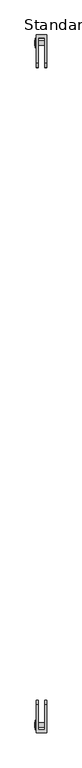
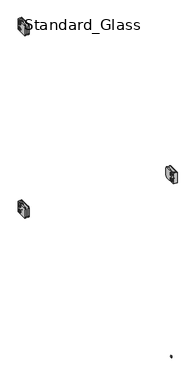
"""IFC4 building model written with IfcOpenShell, lengths in millimetres: railing geometry, Baluster-Excess-Fill-Straight-Panel-VIVA : Standard_Glass."""

from ifc_helpers import new_model, si_unit, point, frame, origin, place, context, project, spatial, polyline, circle_curve, ellipse_curve, trimmed, outline, extrude, source, transform, mapped, element, save
from ifc_brep_helpers import plane_surface, cylinder_surface, revolved_surface, advanced_brep


def standard_glass_b81fef86(model_context):
    return source(origin(), model_context, "Body", "SolidModel", [
        extrude(outline(polyline([(17.3185433, 917.178125), (15.2715791, 913.6326791), (11.1776508, 913.6326791), (9.1306867, 917.178125), (11.1776508, 920.7235709), (15.2715791, 920.7235709), (17.3185433, 917.178125)])), frame((21.7024185, 0.0, 0.0), z_axis=(1.0, 0.0, 0.0), x_axis=(0.0, 1.0, 0.0)), (0.0, 0.0, 1.0), 1.4969696),
        advanced_brep(
        [(36.7665, 16.7700609, 917.178125), (36.7665, 9.6791691, 917.178125), (24.0665, 9.6791691, 917.178125), (24.0665, 16.7700609, 917.178125), (24.0665, 5.8168259, 917.178125), (24.0665, 20.6324041, 917.178125), (23.199388, 14.8806904, 917.178125), (23.199388, 11.5685396, 917.178125), (36.7665, 11.5685396, 917.178125), (36.7665, 14.8806904, 917.178125), (23.2316551, 20.6324041, 917.178125), (23.2316551, 5.8168259, 917.178125), (21.9503831, 7.0980979, 917.178125), (21.9503831, 19.351132, 917.178125), (21.9503831, 8.9260194, 917.178125), (21.9503831, 17.5232105, 917.178125), (23.199388, 8.9260194, 917.178125), (23.199388, 17.5232105, 917.178125)],
        [
            (0, 1, circle_curve(frame((36.7665, 13.224615, 917.178125), z_axis=(-1.0, 0.0, 0.0), x_axis=(0.0, -1.0, 0.0)), 3.5454459)),
            (1, 2),
            (2, 3, circle_curve(frame((24.0665, 13.224615, 917.178125), z_axis=(1.0, 0.0, 0.0), x_axis=(0.0, -1.0, 0.0)), 3.5454459)),
            (3, 0),
            (1, 0, circle_curve(frame((36.7665, 13.224615, 917.178125), z_axis=(-1.0, 0.0, 0.0), x_axis=(0.0, -1.0, 0.0)), 3.5454459)),
            (3, 2, circle_curve(frame((24.0665, 13.224615, 917.178125), z_axis=(1.0, 0.0, 0.0), x_axis=(0.0, -1.0, 0.0)), 3.5454459)),
            (2, 4),
            (4, 5, circle_curve(frame((24.0665, 13.224615, 917.178125), z_axis=(1.0, 0.0, 0.0), x_axis=(0.0, -1.0, 0.0)), 7.4077891)),
            (5, 3),
            (5, 4, circle_curve(frame((24.0665, 13.224615, 917.178125), z_axis=(1.0, 0.0, 0.0), x_axis=(0.0, -1.0, 0.0)), 7.4077891)),
            (6, 7, circle_curve(frame((23.199388, 13.224615, 917.178125), z_axis=(-1.0, 0.0, 0.0), x_axis=(0.0, -1.0, 0.0)), 1.6560754)),
            (7, 8),
            (8, 9, circle_curve(frame((36.7665, 13.224615, 917.178125), z_axis=(1.0, 0.0, 0.0), x_axis=(0.0, -1.0, 0.0)), 1.6560754)),
            (9, 6),
            (7, 6, circle_curve(frame((23.199388, 13.224615, 917.178125), z_axis=(-1.0, 0.0, 0.0), x_axis=(0.0, -1.0, 0.0)), 1.6560754)),
            (9, 8, circle_curve(frame((36.7665, 13.224615, 917.178125), z_axis=(1.0, 0.0, 0.0), x_axis=(0.0, -1.0, 0.0)), 1.6560754)),
            (10, 11, circle_curve(frame((23.2316551, 13.224615, 917.178125), z_axis=(-1.0, 0.0, 0.0), x_axis=(0.0, -1.0, 0.0)), 7.4077891)),
            (11, 12, circle_curve(frame((23.2316551, 7.0980979, 917.178125), z_axis=(0.0, 0.0, -1.0), x_axis=(0.0, -1.0, 0.0)), 1.281272)),
            (12, 13, circle_curve(frame((21.9503831, 13.224615, 917.178125), z_axis=(1.0, 0.0, 0.0), x_axis=(0.0, -1.0, 0.0)), 6.1265171)),
            (13, 10, circle_curve(frame((23.2316551, 19.351132, 917.178125), z_axis=(0.0, 0.0, -1.0), x_axis=(0.0, 1.0, 0.0)), 1.281272)),
            (11, 10, circle_curve(frame((23.2316551, 13.224615, 917.178125), z_axis=(-1.0, 0.0, 0.0), x_axis=(0.0, -1.0, 0.0)), 7.4077891)),
            (13, 12, circle_curve(frame((21.9503831, 13.224615, 917.178125), z_axis=(1.0, 0.0, 0.0), x_axis=(0.0, -1.0, 0.0)), 6.1265171)),
            (12, 14),
            (14, 15, circle_curve(frame((21.9503831, 13.224615, 917.178125), z_axis=(1.0, 0.0, 0.0), x_axis=(0.0, -1.0, 0.0)), 4.2985955)),
            (15, 13),
            (15, 14, circle_curve(frame((21.9503831, 13.224615, 917.178125), z_axis=(1.0, 0.0, 0.0), x_axis=(0.0, -1.0, 0.0)), 4.2985955)),
            (4, 11),
            (10, 5),
            (8, 1),
            (0, 9),
            (14, 16),
            (16, 17, circle_curve(frame((23.199388, 13.224615, 917.178125), z_axis=(1.0, 0.0, 0.0), x_axis=(0.0, -1.0, 0.0)), 4.2985955)),
            (17, 15),
            (17, 16, circle_curve(frame((23.199388, 13.224615, 917.178125), z_axis=(1.0, 0.0, 0.0), x_axis=(0.0, -1.0, 0.0)), 4.2985955)),
            (16, 7),
            (6, 17),
        ],
        [
            cylinder_surface(frame((27.5632331, 13.224615, 917.178125), z_axis=(1.0, 0.0, 0.0), x_axis=(0.0, -1.0, 0.0)), 3.5454459),
            plane_surface(frame((24.0665, 13.224615, 917.178125), z_axis=(1.0, 0.0, 0.0), x_axis=(0.0, -1.0, 0.0))),
            revolved_surface(polyline([(36.7665, 11.5685396, 917.178125), (23.199388, 11.5685396, 917.178125)]), (27.5632331, 13.224615, 917.178125), (1.0, 0.0, 0.0)),
            revolved_surface(trimmed(ellipse_curve(frame((23.2316551, 7.0980979, 917.178125), z_axis=(0.0, 0.0, 1.0), x_axis=(0.0, -1.0, 0.0)), 1.281272, 1.281272), [point((21.9503831, 7.0980979, 917.178125))], [point((23.2316551, 5.8168259, 917.178125))], True, "CARTESIAN"), (27.5632331, 13.224615, 917.178125), (1.0, 0.0, 0.0)),
            plane_surface(frame((21.9503831, 13.224615, 917.178125), z_axis=(-1.0, 0.0, 0.0), x_axis=(0.0, -1.0, 0.0))),
            cylinder_surface(frame((27.5632331, 13.224615, 917.178125), z_axis=(1.0, 0.0, 0.0), x_axis=(0.0, -1.0, 0.0)), 7.4077891),
            plane_surface(frame((36.7665, 13.224615, 917.178125), z_axis=(1.0, 0.0, 0.0), x_axis=(0.0, -1.0, 0.0))),
            revolved_surface(polyline([(23.199388, 8.926019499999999, 917.178125), (21.9503831, 8.926019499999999, 917.178125)]), (27.5632331, 13.224615, 917.178125), (1.0, 0.0, 0.0)),
            plane_surface(frame((23.199388, 13.224615, 917.178125), z_axis=(-1.0, 0.0, 0.0), x_axis=(0.0, -1.0, 0.0))),
        ],
        [
            (0, [[1, 2, 3, 4]]),
            (0, [[5, -4, 6, -2]]),
            (1, [[-3, 7, 8, 9]]),
            (1, [[-6, -9, 10, -7]]),
            (2, [[11, 12, 13, 14]]),
            (2, [[15, -14, 16, -12]]),
            (3, [[17, 18, 19, 20]]),
            (3, [[21, -20, 22, -18]]),
            (4, [[-19, 23, 24, 25]]),
            (4, [[-22, -25, 26, -23]]),
            (5, [[-8, 27, -17, 28]]),
            (5, [[-10, -28, -21, -27]]),
            (6, [[-13, 29, -1, 30]]),
            (6, [[-16, -30, -5, -29]]),
            (7, [[-24, 31, 32, 33]]),
            (7, [[-26, -33, 34, -31]]),
            (8, [[-32, 35, -11, 36]]),
            (8, [[-34, -36, -15, -35]]),
        ],
    ),
        advanced_brep(
        [(36.7665, 16.7700609, 892.571875), (36.7665, 9.6791691, 892.571875), (24.0665, 9.6791691, 892.571875), (24.0665, 16.7700609, 892.571875), (24.0665, 5.8168259, 892.571875), (24.0665, 20.6324041, 892.571875), (23.199388, 14.8806904, 892.571875), (23.199388, 11.5685396, 892.571875), (36.7665, 11.5685396, 892.571875), (36.7665, 14.8806904, 892.571875), (23.2316551, 20.6324041, 892.571875), (23.2316551, 5.8168259, 892.571875), (21.9503831, 7.0980979, 892.571875), (21.9503831, 19.351132, 892.571875), (21.9503831, 8.9260194, 892.571875), (21.9503831, 17.5232105, 892.571875), (23.199388, 8.9260194, 892.571875), (23.199388, 17.5232105, 892.571875)],
        [
            (0, 1, circle_curve(frame((36.7665, 13.224615, 892.571875), z_axis=(-1.0, 0.0, 0.0), x_axis=(0.0, -1.0, 0.0)), 3.5454459)),
            (1, 2),
            (2, 3, circle_curve(frame((24.0665, 13.224615, 892.571875), z_axis=(1.0, 0.0, 0.0), x_axis=(0.0, -1.0, 0.0)), 3.5454459)),
            (3, 0),
            (1, 0, circle_curve(frame((36.7665, 13.224615, 892.571875), z_axis=(-1.0, 0.0, 0.0), x_axis=(0.0, -1.0, 0.0)), 3.5454459)),
            (3, 2, circle_curve(frame((24.0665, 13.224615, 892.571875), z_axis=(1.0, 0.0, 0.0), x_axis=(0.0, -1.0, 0.0)), 3.5454459)),
            (2, 4),
            (4, 5, circle_curve(frame((24.0665, 13.224615, 892.571875), z_axis=(1.0, 0.0, 0.0), x_axis=(0.0, -1.0, 0.0)), 7.4077891)),
            (5, 3),
            (5, 4, circle_curve(frame((24.0665, 13.224615, 892.571875), z_axis=(1.0, 0.0, 0.0), x_axis=(0.0, -1.0, 0.0)), 7.4077891)),
            (6, 7, circle_curve(frame((23.199388, 13.224615, 892.571875), z_axis=(-1.0, 0.0, 0.0), x_axis=(0.0, -1.0, 0.0)), 1.6560754)),
            (7, 8),
            (8, 9, circle_curve(frame((36.7665, 13.224615, 892.571875), z_axis=(1.0, 0.0, 0.0), x_axis=(0.0, -1.0, 0.0)), 1.6560754)),
            (9, 6),
            (7, 6, circle_curve(frame((23.199388, 13.224615, 892.571875), z_axis=(-1.0, 0.0, 0.0), x_axis=(0.0, -1.0, 0.0)), 1.6560754)),
            (9, 8, circle_curve(frame((36.7665, 13.224615, 892.571875), z_axis=(1.0, 0.0, 0.0), x_axis=(0.0, -1.0, 0.0)), 1.6560754)),
            (10, 11, circle_curve(frame((23.2316551, 13.224615, 892.571875), z_axis=(-1.0, 0.0, 0.0), x_axis=(0.0, -1.0, 0.0)), 7.4077891)),
            (11, 12, circle_curve(frame((23.2316551, 7.0980979, 892.571875), z_axis=(0.0, 0.0, -1.0), x_axis=(0.0, -1.0, 0.0)), 1.281272)),
            (12, 13, circle_curve(frame((21.9503831, 13.224615, 892.571875), z_axis=(1.0, 0.0, 0.0), x_axis=(0.0, -1.0, 0.0)), 6.1265171)),
            (13, 10, circle_curve(frame((23.2316551, 19.351132, 892.571875), z_axis=(0.0, 0.0, -1.0), x_axis=(0.0, 1.0, 0.0)), 1.281272)),
            (11, 10, circle_curve(frame((23.2316551, 13.224615, 892.571875), z_axis=(-1.0, 0.0, 0.0), x_axis=(0.0, -1.0, 0.0)), 7.4077891)),
            (13, 12, circle_curve(frame((21.9503831, 13.224615, 892.571875), z_axis=(1.0, 0.0, 0.0), x_axis=(0.0, -1.0, 0.0)), 6.1265171)),
            (12, 14),
            (14, 15, circle_curve(frame((21.9503831, 13.224615, 892.571875), z_axis=(1.0, 0.0, 0.0), x_axis=(0.0, -1.0, 0.0)), 4.2985955)),
            (15, 13),
            (15, 14, circle_curve(frame((21.9503831, 13.224615, 892.571875), z_axis=(1.0, 0.0, 0.0), x_axis=(0.0, -1.0, 0.0)), 4.2985955)),
            (8, 1),
            (0, 9),
            (4, 11),
            (10, 5),
            (14, 16),
            (16, 17, circle_curve(frame((23.199388, 13.224615, 892.571875), z_axis=(1.0, 0.0, 0.0), x_axis=(0.0, -1.0, 0.0)), 4.2985955)),
            (17, 15),
            (17, 16, circle_curve(frame((23.199388, 13.224615, 892.571875), z_axis=(1.0, 0.0, 0.0), x_axis=(0.0, -1.0, 0.0)), 4.2985955)),
            (16, 7),
            (6, 17),
        ],
        [
            cylinder_surface(frame((27.5632331, 13.224615, 892.571875), z_axis=(1.0, 0.0, 0.0), x_axis=(0.0, -1.0, 0.0)), 3.5454459),
            plane_surface(frame((24.0665, 13.224615, 892.571875), z_axis=(1.0, 0.0, 0.0), x_axis=(0.0, -1.0, 0.0))),
            revolved_surface(polyline([(36.7665, 11.5685396, 892.571875), (23.199388, 11.5685396, 892.571875)]), (27.5632331, 13.224615, 892.571875), (1.0, 0.0, 0.0)),
            revolved_surface(trimmed(ellipse_curve(frame((23.2316551, 7.0980979, 892.571875), z_axis=(0.0, 0.0, 1.0), x_axis=(0.0, -1.0, 0.0)), 1.281272, 1.281272), [point((21.9503831, 7.0980979, 892.571875))], [point((23.2316551, 5.8168259, 892.571875))], True, "CARTESIAN"), (27.5632331, 13.224615, 892.571875), (1.0, 0.0, 0.0)),
            plane_surface(frame((21.9503831, 13.224615, 892.571875), z_axis=(-1.0, 0.0, 0.0), x_axis=(0.0, -1.0, 0.0))),
            plane_surface(frame((36.7665, 13.224615, 892.571875), z_axis=(1.0, 0.0, 0.0), x_axis=(0.0, -1.0, 0.0))),
            cylinder_surface(frame((27.5632331, 13.224615, 892.571875), z_axis=(1.0, 0.0, 0.0), x_axis=(0.0, -1.0, 0.0)), 7.4077891),
            revolved_surface(polyline([(23.199388, 8.926019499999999, 892.571875), (21.9503831, 8.926019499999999, 892.571875)]), (27.5632331, 13.224615, 892.571875), (1.0, 0.0, 0.0)),
            plane_surface(frame((23.199388, 13.224615, 892.571875), z_axis=(-1.0, 0.0, 0.0), x_axis=(0.0, -1.0, 0.0))),
        ],
        [
            (0, [[1, 2, 3, 4]]),
            (0, [[5, -4, 6, -2]]),
            (1, [[-3, 7, 8, 9]]),
            (1, [[-6, -9, 10, -7]]),
            (2, [[11, 12, 13, 14]]),
            (2, [[15, -14, 16, -12]]),
            (3, [[17, 18, 19, 20]]),
            (3, [[21, -20, 22, -18]]),
            (4, [[-19, 23, 24, 25]]),
            (4, [[-22, -25, 26, -23]]),
            (5, [[-13, 27, -1, 28]]),
            (5, [[-16, -28, -5, -27]]),
            (6, [[-8, 29, -17, 30]]),
            (6, [[-10, -30, -21, -29]]),
            (7, [[-24, 31, 32, 33]]),
            (7, [[-26, -33, 34, -31]]),
            (8, [[-32, 35, -11, 36]]),
            (8, [[-34, -36, -15, -35]]),
        ],
    ),
        extrude(outline(polyline([(17.3185433, 892.571875), (15.2715791, 889.0264291), (11.1776508, 889.0264291), (9.1306867, 892.571875), (11.1776508, 896.1173209), (15.2715791, 896.1173209), (17.3185433, 892.571875)])), frame((21.7024185, 0.0, 0.0), z_axis=(1.0, 0.0, 0.0), x_axis=(0.0, 1.0, 0.0)), (0.0, 0.0, 1.0), 1.4969696),
        advanced_brep(
        [(24.0665, 25.8579597, 927.1), (24.0665, 25.8579597, 882.65), (24.0665, -18.5920403, 882.65), (24.0665, -24.9420403, 889.0), (24.0665, -24.9420403, 920.75), (24.0665, -18.5920403, 927.1), (39.9415, 25.8579597, 927.1), (39.9415, -18.5920403, 927.1), (39.9415, -24.9420403, 920.75), (39.9415, -24.9420403, 889.0), (39.9415, -18.5920403, 882.65), (39.9415, 25.8579597, 882.65), (36.7665, -18.5920403, 882.65), (36.7665, 21.1398793, 882.65), (27.2415, 21.1398793, 882.65), (27.2415, -18.5920403, 882.65), (36.7665, 21.1398793, 927.1), (27.2415, 21.1398793, 927.1), (27.2415, -18.5920403, 927.1), (27.2415, -24.9420403, 920.75), (27.2415, -24.9420403, 889.0), (36.7665, -24.9420403, 889.0), (36.7665, -24.9420403, 920.75), (36.7665, -18.5920403, 927.1)],
        [
            (0, 1),
            (1, 2),
            (2, 3, circle_curve(frame((24.0665, -18.5920403, 889.0), z_axis=(-1.0, 0.0, 0.0), x_axis=(0.0, -1.0, 0.0)), 6.35)),
            (3, 4),
            (4, 5, circle_curve(frame((24.0665, -18.5920403, 920.75), z_axis=(-1.0, 0.0, 0.0), x_axis=(0.0, -1.0, 0.0)), 6.35)),
            (5, 0),
            (6, 7),
            (7, 8, circle_curve(frame((39.9415, -18.5920403, 920.75), z_axis=(1.0, 0.0, 0.0), x_axis=(0.0, -1.0, 0.0)), 6.35)),
            (8, 9),
            (9, 10, circle_curve(frame((39.9415, -18.5920403, 889.0), z_axis=(1.0, 0.0, 0.0), x_axis=(0.0, -1.0, 0.0)), 6.35)),
            (10, 11),
            (11, 6),
            (0, 6),
            (11, 1),
            (10, 12),
            (12, 13),
            (13, 14),
            (14, 15),
            (15, 2),
            (13, 16),
            (16, 17),
            (17, 14),
            (17, 18),
            (18, 19, circle_curve(frame((27.2415, -18.5920403, 920.75), z_axis=(1.0, 0.0, 0.0), x_axis=(0.0, -1.0, 0.0)), 6.35)),
            (19, 20),
            (20, 15, circle_curve(frame((27.2415, -18.5920403, 889.0), z_axis=(1.0, 0.0, 0.0), x_axis=(0.0, -1.0, 0.0)), 6.35)),
            (12, 21, circle_curve(frame((36.7665, -18.5920403, 889.0), z_axis=(-1.0, 0.0, 0.0), x_axis=(0.0, -1.0, 0.0)), 6.35)),
            (21, 22),
            (22, 23, circle_curve(frame((36.7665, -18.5920403, 920.75), z_axis=(-1.0, 0.0, 0.0), x_axis=(0.0, -1.0, 0.0)), 6.35)),
            (23, 16),
            (20, 3),
            (9, 21),
            (19, 4),
            (8, 22),
            (18, 5),
            (7, 23),
        ],
        [
            plane_surface(frame((24.0665, 25.8579597, 882.65), z_axis=(-1.0, 0.0, 0.0), x_axis=(0.0, 0.0, -1.0))),
            plane_surface(frame((39.9415, 25.8579597, 882.65), z_axis=(1.0, 0.0, 0.0), x_axis=(0.0, 0.0, 1.0))),
            plane_surface(frame((24.0665, 25.8579597, 927.1), z_axis=(0.0, 1.0, 0.0), x_axis=(1.0, 0.0, 0.0))),
            plane_surface(frame((24.0665, 25.8579597, 882.65), z_axis=(0.0, 0.0, -1.0), x_axis=(1.0, 0.0, 0.0))),
            plane_surface(frame((36.7665, 21.1398793, 939.8), z_axis=(0.0, -1.0, 0.0), x_axis=(0.0, 0.0, -1.0))),
            plane_surface(frame((27.2415, 21.1398793, 939.8), z_axis=(1.0, 0.0, 0.0), x_axis=(0.0, 0.0, -1.0))),
            plane_surface(frame((36.7665, -37.6420403, 939.8), z_axis=(-1.0, 0.0, 0.0), x_axis=(0.0, 0.0, -1.0))),
            cylinder_surface(frame((39.9415, -18.5920403, 889.0), z_axis=(-1.0, 0.0, 0.0), x_axis=(0.0, -1.0, 0.0)), 6.35),
            plane_surface(frame((24.0665, -24.9420403, 889.0), z_axis=(0.0, -1.0, 0.0), x_axis=(1.0, 0.0, 0.0))),
            cylinder_surface(frame((39.9415, -18.5920403, 920.75), z_axis=(-1.0, 0.0, 0.0), x_axis=(0.0, -1.0, 0.0)), 6.35),
            plane_surface(frame((24.0665, -18.5920403, 927.1), z_axis=(0.0, 0.0, 1.0), x_axis=(1.0, 0.0, 0.0))),
        ],
        [
            (0, [[1, 2, 3, 4, 5, 6]]),
            (1, [[7, 8, 9, 10, 11, 12]]),
            (2, [[-1, 13, -12, 14]]),
            (3, [[-2, -14, -11, 15, 16, 17, 18, 19]]),
            (4, [[20, 21, 22, -17]]),
            (5, [[-22, 23, 24, 25, 26, -18]]),
            (6, [[-20, -16, 27, 28, 29, 30]]),
            (7, [[-3, -19, -26, 31]]),
            (7, [[-10, 32, -27, -15]]),
            (8, [[-4, -31, -25, 33]]),
            (8, [[-9, 34, -28, -32]]),
            (9, [[-5, -33, -24, 35]]),
            (9, [[-8, 36, -29, -34]]),
            (10, [[-6, -35, -23, -21, -30, -36, -7, -13]]),
        ],
    ),
        extrude(outline(polyline([(17.3185433, 138.7358896), (15.2715791, 135.1904437), (11.1776508, 135.1904437), (9.1306867, 138.7358896), (11.1776508, 142.2813355), (15.2715791, 142.2813355), (17.3185433, 138.7358896)])), frame((21.7024185, 0.0, 0.0), z_axis=(1.0, 0.0, 0.0), x_axis=(0.0, 1.0, 0.0)), (0.0, 0.0, 1.0), 1.4969696),
        advanced_brep(
        [(36.7665, 16.7700609, 138.7358896), (36.7665, 9.6791691, 138.7358896), (24.0665, 9.6791691, 138.7358896), (24.0665, 16.7700609, 138.7358896), (24.0665, 5.8168259, 138.7358896), (24.0665, 20.6324041, 138.7358896), (23.199388, 14.8806904, 138.7358896), (23.199388, 11.5685396, 138.7358896), (36.7665, 11.5685396, 138.7358896), (36.7665, 14.8806904, 138.7358896), (23.2316551, 20.6324041, 138.7358896), (23.2316551, 5.8168259, 138.7358896), (21.9503831, 7.0980979, 138.7358896), (21.9503831, 19.351132, 138.7358896), (21.9503831, 8.9260194, 138.7358896), (21.9503831, 17.5232105, 138.7358896), (23.199388, 8.9260194, 138.7358896), (23.199388, 17.5232105, 138.7358896)],
        [
            (0, 1, circle_curve(frame((36.7665, 13.224615, 138.7358896), z_axis=(-1.0, 0.0, 0.0), x_axis=(0.0, -1.0, 0.0)), 3.5454459)),
            (1, 2),
            (2, 3, circle_curve(frame((24.0665, 13.224615, 138.7358896), z_axis=(1.0, 0.0, 0.0), x_axis=(0.0, -1.0, 0.0)), 3.5454459)),
            (3, 0),
            (1, 0, circle_curve(frame((36.7665, 13.224615, 138.7358896), z_axis=(-1.0, 0.0, 0.0), x_axis=(0.0, -1.0, 0.0)), 3.5454459)),
            (3, 2, circle_curve(frame((24.0665, 13.224615, 138.7358896), z_axis=(1.0, 0.0, 0.0), x_axis=(0.0, -1.0, 0.0)), 3.5454459)),
            (2, 4),
            (4, 5, circle_curve(frame((24.0665, 13.224615, 138.7358896), z_axis=(1.0, 0.0, 0.0), x_axis=(0.0, -1.0, 0.0)), 7.4077891)),
            (5, 3),
            (5, 4, circle_curve(frame((24.0665, 13.224615, 138.7358896), z_axis=(1.0, 0.0, 0.0), x_axis=(0.0, -1.0, 0.0)), 7.4077891)),
            (6, 7, circle_curve(frame((23.199388, 13.224615, 138.7358896), z_axis=(-1.0, 0.0, 0.0), x_axis=(0.0, -1.0, 0.0)), 1.6560754)),
            (7, 8),
            (8, 9, circle_curve(frame((36.7665, 13.224615, 138.7358896), z_axis=(1.0, 0.0, 0.0), x_axis=(0.0, -1.0, 0.0)), 1.6560754)),
            (9, 6),
            (7, 6, circle_curve(frame((23.199388, 13.224615, 138.7358896), z_axis=(-1.0, 0.0, 0.0), x_axis=(0.0, -1.0, 0.0)), 1.6560754)),
            (9, 8, circle_curve(frame((36.7665, 13.224615, 138.7358896), z_axis=(1.0, 0.0, 0.0), x_axis=(0.0, -1.0, 0.0)), 1.6560754)),
            (10, 11, circle_curve(frame((23.2316551, 13.224615, 138.7358896), z_axis=(-1.0, 0.0, 0.0), x_axis=(0.0, -1.0, 0.0)), 7.4077891)),
            (11, 12, circle_curve(frame((23.2316551, 7.0980979, 138.7358896), z_axis=(0.0, 0.0, -1.0), x_axis=(0.0, -1.0, 0.0)), 1.281272)),
            (12, 13, circle_curve(frame((21.9503831, 13.224615, 138.7358896), z_axis=(1.0, 0.0, 0.0), x_axis=(0.0, -1.0, 0.0)), 6.1265171)),
            (13, 10, circle_curve(frame((23.2316551, 19.351132, 138.7358896), z_axis=(0.0, 0.0, -1.0), x_axis=(0.0, 1.0, 0.0)), 1.281272)),
            (11, 10, circle_curve(frame((23.2316551, 13.224615, 138.7358896), z_axis=(-1.0, 0.0, 0.0), x_axis=(0.0, -1.0, 0.0)), 7.4077891)),
            (13, 12, circle_curve(frame((21.9503831, 13.224615, 138.7358896), z_axis=(1.0, 0.0, 0.0), x_axis=(0.0, -1.0, 0.0)), 6.1265171)),
            (12, 14),
            (14, 15, circle_curve(frame((21.9503831, 13.224615, 138.7358896), z_axis=(1.0, 0.0, 0.0), x_axis=(0.0, -1.0, 0.0)), 4.2985955)),
            (15, 13),
            (15, 14, circle_curve(frame((21.9503831, 13.224615, 138.7358896), z_axis=(1.0, 0.0, 0.0), x_axis=(0.0, -1.0, 0.0)), 4.2985955)),
            (4, 11),
            (10, 5),
            (8, 1),
            (0, 9),
            (14, 16),
            (16, 17, circle_curve(frame((23.199388, 13.224615, 138.7358896), z_axis=(1.0, 0.0, 0.0), x_axis=(0.0, -1.0, 0.0)), 4.2985955)),
            (17, 15),
            (17, 16, circle_curve(frame((23.199388, 13.224615, 138.7358896), z_axis=(1.0, 0.0, 0.0), x_axis=(0.0, -1.0, 0.0)), 4.2985955)),
            (16, 7),
            (6, 17),
        ],
        [
            cylinder_surface(frame((27.5632331, 13.224615, 138.7358896), z_axis=(1.0, 0.0, 0.0), x_axis=(0.0, -1.0, 0.0)), 3.5454459),
            plane_surface(frame((24.0665, 13.224615, 138.7358896), z_axis=(1.0, 0.0, 0.0), x_axis=(0.0, -1.0, 0.0))),
            revolved_surface(polyline([(36.7665, 11.5685396, 138.7358896), (23.199388, 11.5685396, 138.7358896)]), (27.5632331, 13.224615, 138.7358896), (1.0, 0.0, 0.0)),
            revolved_surface(trimmed(ellipse_curve(frame((23.2316551, 7.0980979, 138.7358896), z_axis=(0.0, 0.0, 1.0), x_axis=(0.0, -1.0, 0.0)), 1.281272, 1.281272), [point((21.9503831, 7.0980979, 138.7358896))], [point((23.2316551, 5.8168259, 138.7358896))], True, "CARTESIAN"), (27.5632331, 13.224615, 138.7358896), (1.0, 0.0, 0.0)),
            plane_surface(frame((21.9503831, 13.224615, 138.7358896), z_axis=(-1.0, 0.0, 0.0), x_axis=(0.0, -1.0, 0.0))),
            cylinder_surface(frame((27.5632331, 13.224615, 138.7358896), z_axis=(1.0, 0.0, 0.0), x_axis=(0.0, -1.0, 0.0)), 7.4077891),
            plane_surface(frame((36.7665, 13.224615, 138.7358896), z_axis=(1.0, 0.0, 0.0), x_axis=(0.0, -1.0, 0.0))),
            revolved_surface(polyline([(23.199388, 8.926019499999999, 138.7358896), (21.9503831, 8.926019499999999, 138.7358896)]), (27.5632331, 13.224615, 138.7358896), (1.0, 0.0, 0.0)),
            plane_surface(frame((23.199388, 13.224615, 138.7358896), z_axis=(-1.0, 0.0, 0.0), x_axis=(0.0, -1.0, 0.0))),
        ],
        [
            (0, [[1, 2, 3, 4]]),
            (0, [[5, -4, 6, -2]]),
            (1, [[-3, 7, 8, 9]]),
            (1, [[-6, -9, 10, -7]]),
            (2, [[11, 12, 13, 14]]),
            (2, [[15, -14, 16, -12]]),
            (3, [[17, 18, 19, 20]]),
            (3, [[21, -20, 22, -18]]),
            (4, [[-19, 23, 24, 25]]),
            (4, [[-22, -25, 26, -23]]),
            (5, [[-8, 27, -17, 28]]),
            (5, [[-10, -28, -21, -27]]),
            (6, [[-13, 29, -1, 30]]),
            (6, [[-16, -30, -5, -29]]),
            (7, [[-24, 31, 32, 33]]),
            (7, [[-26, -33, 34, -31]]),
            (8, [[-32, 35, -11, 36]]),
            (8, [[-34, -36, -15, -35]]),
        ],
    ),
        advanced_brep(
        [(36.7665, 16.7700609, 114.1296396), (36.7665, 9.6791691, 114.1296396), (24.0665, 9.6791691, 114.1296396), (24.0665, 16.7700609, 114.1296396), (24.0665, 5.8168259, 114.1296396), (24.0665, 20.6324041, 114.1296396), (23.199388, 14.8806904, 114.1296396), (23.199388, 11.5685396, 114.1296396), (36.7665, 11.5685396, 114.1296396), (36.7665, 14.8806904, 114.1296396), (23.2316551, 20.6324041, 114.1296396), (23.2316551, 5.8168259, 114.1296396), (21.9503831, 7.0980979, 114.1296396), (21.9503831, 19.351132, 114.1296396), (21.9503831, 8.9260194, 114.1296396), (21.9503831, 17.5232105, 114.1296396), (23.199388, 8.9260194, 114.1296396), (23.199388, 17.5232105, 114.1296396)],
        [
            (0, 1, circle_curve(frame((36.7665, 13.224615, 114.1296396), z_axis=(-1.0, 0.0, 0.0), x_axis=(0.0, -1.0, 0.0)), 3.5454459)),
            (1, 2),
            (2, 3, circle_curve(frame((24.0665, 13.224615, 114.1296396), z_axis=(1.0, 0.0, 0.0), x_axis=(0.0, -1.0, 0.0)), 3.5454459)),
            (3, 0),
            (1, 0, circle_curve(frame((36.7665, 13.224615, 114.1296396), z_axis=(-1.0, 0.0, 0.0), x_axis=(0.0, -1.0, 0.0)), 3.5454459)),
            (3, 2, circle_curve(frame((24.0665, 13.224615, 114.1296396), z_axis=(1.0, 0.0, 0.0), x_axis=(0.0, -1.0, 0.0)), 3.5454459)),
            (2, 4),
            (4, 5, circle_curve(frame((24.0665, 13.224615, 114.1296396), z_axis=(1.0, 0.0, 0.0), x_axis=(0.0, -1.0, 0.0)), 7.4077891)),
            (5, 3),
            (5, 4, circle_curve(frame((24.0665, 13.224615, 114.1296396), z_axis=(1.0, 0.0, 0.0), x_axis=(0.0, -1.0, 0.0)), 7.4077891)),
            (6, 7, circle_curve(frame((23.199388, 13.224615, 114.1296396), z_axis=(-1.0, 0.0, 0.0), x_axis=(0.0, -1.0, 0.0)), 1.6560754)),
            (7, 8),
            (8, 9, circle_curve(frame((36.7665, 13.224615, 114.1296396), z_axis=(1.0, 0.0, 0.0), x_axis=(0.0, -1.0, 0.0)), 1.6560754)),
            (9, 6),
            (7, 6, circle_curve(frame((23.199388, 13.224615, 114.1296396), z_axis=(-1.0, 0.0, 0.0), x_axis=(0.0, -1.0, 0.0)), 1.6560754)),
            (9, 8, circle_curve(frame((36.7665, 13.224615, 114.1296396), z_axis=(1.0, 0.0, 0.0), x_axis=(0.0, -1.0, 0.0)), 1.6560754)),
            (10, 11, circle_curve(frame((23.2316551, 13.224615, 114.1296396), z_axis=(-1.0, 0.0, 0.0), x_axis=(0.0, -1.0, 0.0)), 7.4077891)),
            (11, 12, circle_curve(frame((23.2316551, 7.0980979, 114.1296396), z_axis=(0.0, 0.0, -1.0), x_axis=(0.0, -1.0, 0.0)), 1.281272)),
            (12, 13, circle_curve(frame((21.9503831, 13.224615, 114.1296396), z_axis=(1.0, 0.0, 0.0), x_axis=(0.0, -1.0, 0.0)), 6.1265171)),
            (13, 10, circle_curve(frame((23.2316551, 19.351132, 114.1296396), z_axis=(0.0, 0.0, -1.0), x_axis=(0.0, 1.0, 0.0)), 1.281272)),
            (11, 10, circle_curve(frame((23.2316551, 13.224615, 114.1296396), z_axis=(-1.0, 0.0, 0.0), x_axis=(0.0, -1.0, 0.0)), 7.4077891)),
            (13, 12, circle_curve(frame((21.9503831, 13.224615, 114.1296396), z_axis=(1.0, 0.0, 0.0), x_axis=(0.0, -1.0, 0.0)), 6.1265171)),
            (12, 14),
            (14, 15, circle_curve(frame((21.9503831, 13.224615, 114.1296396), z_axis=(1.0, 0.0, 0.0), x_axis=(0.0, -1.0, 0.0)), 4.2985955)),
            (15, 13),
            (15, 14, circle_curve(frame((21.9503831, 13.224615, 114.1296396), z_axis=(1.0, 0.0, 0.0), x_axis=(0.0, -1.0, 0.0)), 4.2985955)),
            (8, 1),
            (0, 9),
            (4, 11),
            (10, 5),
            (14, 16),
            (16, 17, circle_curve(frame((23.199388, 13.224615, 114.1296396), z_axis=(1.0, 0.0, 0.0), x_axis=(0.0, -1.0, 0.0)), 4.2985955)),
            (17, 15),
            (17, 16, circle_curve(frame((23.199388, 13.224615, 114.1296396), z_axis=(1.0, 0.0, 0.0), x_axis=(0.0, -1.0, 0.0)), 4.2985955)),
            (16, 7),
            (6, 17),
        ],
        [
            cylinder_surface(frame((27.5632331, 13.224615, 114.1296396), z_axis=(1.0, 0.0, 0.0), x_axis=(0.0, -1.0, 0.0)), 3.5454459),
            plane_surface(frame((24.0665, 13.224615, 114.1296396), z_axis=(1.0, 0.0, 0.0), x_axis=(0.0, -1.0, 0.0))),
            revolved_surface(polyline([(36.7665, 11.5685396, 114.1296396), (23.199388, 11.5685396, 114.1296396)]), (27.5632331, 13.224615, 114.1296396), (1.0, 0.0, 0.0)),
            revolved_surface(trimmed(ellipse_curve(frame((23.2316551, 7.0980979, 114.1296396), z_axis=(0.0, 0.0, 1.0), x_axis=(0.0, -1.0, 0.0)), 1.281272, 1.281272), [point((21.9503831, 7.0980979, 114.1296396))], [point((23.2316551, 5.8168259, 114.1296396))], True, "CARTESIAN"), (27.5632331, 13.224615, 114.1296396), (1.0, 0.0, 0.0)),
            plane_surface(frame((21.9503831, 13.224615, 114.1296396), z_axis=(-1.0, 0.0, 0.0), x_axis=(0.0, -1.0, 0.0))),
            plane_surface(frame((36.7665, 13.224615, 114.1296396), z_axis=(1.0, 0.0, 0.0), x_axis=(0.0, -1.0, 0.0))),
            cylinder_surface(frame((27.5632331, 13.224615, 114.1296396), z_axis=(1.0, 0.0, 0.0), x_axis=(0.0, -1.0, 0.0)), 7.4077891),
            revolved_surface(polyline([(23.199388, 8.926019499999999, 114.1296396), (21.9503831, 8.926019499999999, 114.1296396)]), (27.5632331, 13.224615, 114.1296396), (1.0, 0.0, 0.0)),
            plane_surface(frame((23.199388, 13.224615, 114.1296396), z_axis=(-1.0, 0.0, 0.0), x_axis=(0.0, -1.0, 0.0))),
        ],
        [
            (0, [[1, 2, 3, 4]]),
            (0, [[5, -4, 6, -2]]),
            (1, [[-3, 7, 8, 9]]),
            (1, [[-6, -9, 10, -7]]),
            (2, [[11, 12, 13, 14]]),
            (2, [[15, -14, 16, -12]]),
            (3, [[17, 18, 19, 20]]),
            (3, [[21, -20, 22, -18]]),
            (4, [[-19, 23, 24, 25]]),
            (4, [[-22, -25, 26, -23]]),
            (5, [[-13, 27, -1, 28]]),
            (5, [[-16, -28, -5, -27]]),
            (6, [[-8, 29, -17, 30]]),
            (6, [[-10, -30, -21, -29]]),
            (7, [[-24, 31, 32, 33]]),
            (7, [[-26, -33, 34, -31]]),
            (8, [[-32, 35, -11, 36]]),
            (8, [[-34, -36, -15, -35]]),
        ],
    ),
        extrude(outline(polyline([(17.3185433, 114.1296396), (15.2715791, 110.5841937), (11.1776508, 110.5841937), (9.1306867, 114.1296396), (11.1776508, 117.6750855), (15.2715791, 117.6750855), (17.3185433, 114.1296396)])), frame((21.7024185, 0.0, 0.0), z_axis=(1.0, 0.0, 0.0), x_axis=(0.0, 1.0, 0.0)), (0.0, 0.0, 1.0), 1.4969696),
        advanced_brep(
        [(24.0665, 25.8579597, 148.6577646), (24.0665, 25.8579597, 104.2077646), (24.0665, -18.5920403, 104.2077646), (24.0665, -24.9420403, 110.5577646), (24.0665, -24.9420403, 142.3077646), (24.0665, -18.5920403, 148.6577646), (39.9415, 25.8579597, 148.6577646), (39.9415, -18.5920403, 148.6577646), (39.9415, -24.9420403, 142.3077646), (39.9415, -24.9420403, 110.5577646), (39.9415, -18.5920403, 104.2077646), (39.9415, 25.8579597, 104.2077646), (36.7665, -18.5920403, 104.2077646), (36.7665, 21.1398793, 104.2077646), (27.2415, 21.1398793, 104.2077646), (27.2415, -18.5920403, 104.2077646), (36.7665, 21.1398793, 148.6577646), (27.2415, 21.1398793, 148.6577646), (27.2415, -18.5920403, 148.6577646), (27.2415, -24.9420403, 142.3077646), (27.2415, -24.9420403, 110.5577646), (36.7665, -24.9420403, 110.5577646), (36.7665, -24.9420403, 142.3077646), (36.7665, -18.5920403, 148.6577646)],
        [
            (0, 1),
            (1, 2),
            (2, 3, circle_curve(frame((24.0665, -18.5920403, 110.5577646), z_axis=(-1.0, 0.0, 0.0), x_axis=(0.0, -1.0, 0.0)), 6.35)),
            (3, 4),
            (4, 5, circle_curve(frame((24.0665, -18.5920403, 142.3077646), z_axis=(-1.0, 0.0, 0.0), x_axis=(0.0, -1.0, 0.0)), 6.35)),
            (5, 0),
            (6, 7),
            (7, 8, circle_curve(frame((39.9415, -18.5920403, 142.3077646), z_axis=(1.0, 0.0, 0.0), x_axis=(0.0, -1.0, 0.0)), 6.35)),
            (8, 9),
            (9, 10, circle_curve(frame((39.9415, -18.5920403, 110.5577646), z_axis=(1.0, 0.0, 0.0), x_axis=(0.0, -1.0, 0.0)), 6.35)),
            (10, 11),
            (11, 6),
            (0, 6),
            (11, 1),
            (10, 12),
            (12, 13),
            (13, 14),
            (14, 15),
            (15, 2),
            (13, 16),
            (16, 17),
            (17, 14),
            (17, 18),
            (18, 19, circle_curve(frame((27.2415, -18.5920403, 142.3077646), z_axis=(1.0, 0.0, 0.0), x_axis=(0.0, -1.0, 0.0)), 6.35)),
            (19, 20),
            (20, 15, circle_curve(frame((27.2415, -18.5920403, 110.5577646), z_axis=(1.0, 0.0, 0.0), x_axis=(0.0, -1.0, 0.0)), 6.35)),
            (12, 21, circle_curve(frame((36.7665, -18.5920403, 110.5577646), z_axis=(-1.0, 0.0, 0.0), x_axis=(0.0, -1.0, 0.0)), 6.35)),
            (21, 22),
            (22, 23, circle_curve(frame((36.7665, -18.5920403, 142.3077646), z_axis=(-1.0, 0.0, 0.0), x_axis=(0.0, -1.0, 0.0)), 6.35)),
            (23, 16),
            (20, 3),
            (9, 21),
            (19, 4),
            (8, 22),
            (18, 5),
            (7, 23),
        ],
        [
            plane_surface(frame((24.0665, 25.8579597, 104.2077646), z_axis=(-1.0, 0.0, 0.0), x_axis=(0.0, 0.0, -1.0))),
            plane_surface(frame((39.9415, 25.8579597, 104.2077646), z_axis=(1.0, 0.0, 0.0), x_axis=(0.0, 0.0, 1.0))),
            plane_surface(frame((24.0665, 25.8579597, 148.6577646), z_axis=(0.0, 1.0, 0.0), x_axis=(1.0, 0.0, 0.0))),
            plane_surface(frame((24.0665, 25.8579597, 104.2077646), z_axis=(0.0, 0.0, -1.0), x_axis=(1.0, 0.0, 0.0))),
            plane_surface(frame((36.7665, 21.1398793, 161.3577646), z_axis=(0.0, -1.0, 0.0), x_axis=(0.0, 0.0, -1.0))),
            plane_surface(frame((27.2415, 21.1398793, 161.3577646), z_axis=(1.0, 0.0, 0.0), x_axis=(0.0, 0.0, -1.0))),
            plane_surface(frame((36.7665, -37.6420403, 161.3577646), z_axis=(-1.0, 0.0, 0.0), x_axis=(0.0, 0.0, -1.0))),
            cylinder_surface(frame((39.9415, -18.5920403, 110.5577646), z_axis=(-1.0, 0.0, 0.0), x_axis=(0.0, -1.0, 0.0)), 6.35),
            plane_surface(frame((24.0665, -24.9420403, 110.5577646), z_axis=(0.0, -1.0, 0.0), x_axis=(1.0, 0.0, 0.0))),
            cylinder_surface(frame((39.9415, -18.5920403, 142.3077646), z_axis=(-1.0, 0.0, 0.0), x_axis=(0.0, -1.0, 0.0)), 6.35),
            plane_surface(frame((24.0665, -18.5920403, 148.6577646), z_axis=(0.0, 0.0, 1.0), x_axis=(1.0, 0.0, 0.0))),
        ],
        [
            (0, [[1, 2, 3, 4, 5, 6]]),
            (1, [[7, 8, 9, 10, 11, 12]]),
            (2, [[-1, 13, -12, 14]]),
            (3, [[-2, -14, -11, 15, 16, 17, 18, 19]]),
            (4, [[20, 21, 22, -17]]),
            (5, [[-22, 23, 24, 25, 26, -18]]),
            (6, [[-20, -16, 27, 28, 29, 30]]),
            (7, [[-3, -19, -26, 31]]),
            (7, [[-10, 32, -27, -15]]),
            (8, [[-4, -31, -25, 33]]),
            (8, [[-9, 34, -28, -32]]),
            (9, [[-5, -33, -24, 35]]),
            (9, [[-8, 36, -29, -34]]),
            (10, [[-6, -35, -23, -21, -30, -36, -7, -13]]),
        ],
    ),
        extrude(outline(polyline([(-1054.013044, 917.178125), (-1051.9660799, 920.7235709), (-1047.8721516, 920.7235709), (-1045.8251874, 917.178125), (-1047.8721516, 913.6326791), (-1051.9660799, 913.6326791), (-1054.013044, 917.178125)])), frame((21.7024185, 0.0, 0.0), z_axis=(1.0, 0.0, 0.0), x_axis=(0.0, 1.0, 0.0)), (0.0, 0.0, 1.0), 1.4969696),
        advanced_brep(
        [(36.7665, -1053.4645616, 917.178125), (24.0665, -1053.4645616, 917.178125), (24.0665, -1046.3736698, 917.178125), (36.7665, -1046.3736698, 917.178125), (24.0665, -1057.3269048, 917.178125), (24.0665, -1042.5113266, 917.178125), (23.199388, -1051.5751911, 917.178125), (36.7665, -1051.5751911, 917.178125), (36.7665, -1048.2630403, 917.178125), (23.199388, -1048.2630403, 917.178125), (23.2316551, -1057.3269048, 917.178125), (21.9503831, -1056.0456328, 917.178125), (21.9503831, -1043.7925987, 917.178125), (23.2316551, -1042.5113266, 917.178125), (21.9503831, -1054.2177113, 917.178125), (21.9503831, -1045.6205202, 917.178125), (23.199388, -1054.2177113, 917.178125), (23.199388, -1045.6205202, 917.178125)],
        [
            (0, 1),
            (1, 2, circle_curve(frame((24.0665, -1049.9191157, 917.178125), z_axis=(1.0, 0.0, 0.0), x_axis=(0.0, 1.0, 0.0)), 3.5454459)),
            (2, 3),
            (3, 0, circle_curve(frame((36.7665, -1049.9191157, 917.178125), z_axis=(-1.0, 0.0, 0.0), x_axis=(0.0, 1.0, 0.0)), 3.5454459)),
            (2, 1, circle_curve(frame((24.0665, -1049.9191157, 917.178125), z_axis=(1.0, 0.0, 0.0), x_axis=(0.0, 1.0, 0.0)), 3.5454459)),
            (0, 3, circle_curve(frame((36.7665, -1049.9191157, 917.178125), z_axis=(-1.0, 0.0, 0.0), x_axis=(0.0, 1.0, 0.0)), 3.5454459)),
            (1, 4),
            (4, 5, circle_curve(frame((24.0665, -1049.9191157, 917.178125), z_axis=(1.0, 0.0, 0.0), x_axis=(0.0, 1.0, 0.0)), 7.4077891)),
            (5, 2),
            (5, 4, circle_curve(frame((24.0665, -1049.9191157, 917.178125), z_axis=(1.0, 0.0, 0.0), x_axis=(0.0, 1.0, 0.0)), 7.4077891)),
            (6, 7),
            (7, 8, circle_curve(frame((36.7665, -1049.9191157, 917.178125), z_axis=(1.0, 0.0, 0.0), x_axis=(0.0, 1.0, 0.0)), 1.6560754)),
            (8, 9),
            (9, 6, circle_curve(frame((23.199388, -1049.9191157, 917.178125), z_axis=(-1.0, 0.0, 0.0), x_axis=(0.0, 1.0, 0.0)), 1.6560754)),
            (8, 7, circle_curve(frame((36.7665, -1049.9191157, 917.178125), z_axis=(1.0, 0.0, 0.0), x_axis=(0.0, 1.0, 0.0)), 1.6560754)),
            (6, 9, circle_curve(frame((23.199388, -1049.9191157, 917.178125), z_axis=(-1.0, 0.0, 0.0), x_axis=(0.0, 1.0, 0.0)), 1.6560754)),
            (10, 11, circle_curve(frame((23.2316551, -1056.0456328, 917.178125), z_axis=(0.0, 0.0, -1.0), x_axis=(0.0, -1.0, 0.0)), 1.281272)),
            (11, 12, circle_curve(frame((21.9503831, -1049.9191157, 917.178125), z_axis=(1.0, 0.0, 0.0), x_axis=(0.0, 1.0, 0.0)), 6.1265171)),
            (12, 13, circle_curve(frame((23.2316551, -1043.7925987, 917.178125), z_axis=(0.0, 0.0, -1.0), x_axis=(0.0, 1.0, 0.0)), 1.281272)),
            (13, 10, circle_curve(frame((23.2316551, -1049.9191157, 917.178125), z_axis=(-1.0, 0.0, 0.0), x_axis=(0.0, 1.0, 0.0)), 7.4077891)),
            (12, 11, circle_curve(frame((21.9503831, -1049.9191157, 917.178125), z_axis=(1.0, 0.0, 0.0), x_axis=(0.0, 1.0, 0.0)), 6.1265171)),
            (10, 13, circle_curve(frame((23.2316551, -1049.9191157, 917.178125), z_axis=(-1.0, 0.0, 0.0), x_axis=(0.0, 1.0, 0.0)), 7.4077891)),
            (11, 14),
            (14, 15, circle_curve(frame((21.9503831, -1049.9191157, 917.178125), z_axis=(1.0, 0.0, 0.0), x_axis=(0.0, 1.0, 0.0)), 4.2985955)),
            (15, 12),
            (15, 14, circle_curve(frame((21.9503831, -1049.9191157, 917.178125), z_axis=(1.0, 0.0, 0.0), x_axis=(0.0, 1.0, 0.0)), 4.2985955)),
            (4, 10),
            (13, 5),
            (7, 0),
            (3, 8),
            (14, 16),
            (16, 17, circle_curve(frame((23.199388, -1049.9191157, 917.178125), z_axis=(1.0, 0.0, 0.0), x_axis=(0.0, 1.0, 0.0)), 4.2985955)),
            (17, 15),
            (17, 16, circle_curve(frame((23.199388, -1049.9191157, 917.178125), z_axis=(1.0, 0.0, 0.0), x_axis=(0.0, 1.0, 0.0)), 4.2985955)),
            (16, 6),
            (9, 17),
        ],
        [
            cylinder_surface(frame((27.5632331, -1049.9191157, 917.178125), z_axis=(1.0, 0.0, 0.0), x_axis=(0.0, 1.0, 0.0)), 3.5454459),
            plane_surface(frame((24.0665, -1049.9191157, 917.178125), z_axis=(1.0, 0.0, 0.0), x_axis=(0.0, 1.0, 0.0))),
            revolved_surface(polyline([(36.7665, -1048.2630403, 917.178125), (23.199388, -1048.2630403, 917.178125)]), (27.5632331, -1049.9191157, 917.178125), (1.0, 0.0, 0.0)),
            revolved_surface(trimmed(ellipse_curve(frame((23.2316551, -1043.7925987, 917.178125), z_axis=(0.0, 0.0, -1.0), x_axis=(0.0, 1.0, 0.0)), 1.281272, 1.281272), [point((21.9503831, -1043.7925987, 917.178125))], [point((23.2316551, -1042.5113266, 917.178125))], True, "CARTESIAN"), (27.5632331, -1049.9191157, 917.178125), (1.0, 0.0, 0.0)),
            plane_surface(frame((21.9503831, -1049.9191157, 917.178125), z_axis=(-1.0, 0.0, 0.0), x_axis=(0.0, 1.0, 0.0))),
            cylinder_surface(frame((27.5632331, -1049.9191157, 917.178125), z_axis=(1.0, 0.0, 0.0), x_axis=(0.0, 1.0, 0.0)), 7.4077891),
            plane_surface(frame((36.7665, -1049.9191157, 917.178125), z_axis=(1.0, 0.0, 0.0), x_axis=(0.0, 1.0, 0.0))),
            revolved_surface(polyline([(23.199388, -1045.6205202, 917.178125), (21.9503831, -1045.6205202, 917.178125)]), (27.5632331, -1049.9191157, 917.178125), (1.0, 0.0, 0.0)),
            plane_surface(frame((23.199388, -1049.9191157, 917.178125), z_axis=(-1.0, 0.0, 0.0), x_axis=(0.0, 1.0, 0.0))),
        ],
        [
            (0, [[1, 2, 3, 4]]),
            (0, [[-3, 5, -1, 6]]),
            (1, [[7, 8, 9, -2]]),
            (1, [[-9, 10, -7, -5]]),
            (2, [[11, 12, 13, 14]]),
            (2, [[-13, 15, -11, 16]]),
            (3, [[17, 18, 19, 20]]),
            (3, [[-19, 21, -17, 22]]),
            (4, [[23, 24, 25, -18]]),
            (4, [[-25, 26, -23, -21]]),
            (5, [[27, -20, 28, -8]]),
            (5, [[-28, -22, -27, -10]]),
            (6, [[29, -4, 30, -12]]),
            (6, [[-30, -6, -29, -15]]),
            (7, [[31, 32, 33, -24]]),
            (7, [[-33, 34, -31, -26]]),
            (8, [[35, -14, 36, -32]]),
            (8, [[-36, -16, -35, -34]]),
        ],
    ),
        advanced_brep(
        [(36.7665, -1053.4645616, 892.571875), (24.0665, -1053.4645616, 892.571875), (24.0665, -1046.3736698, 892.571875), (36.7665, -1046.3736698, 892.571875), (24.0665, -1057.3269048, 892.571875), (24.0665, -1042.5113266, 892.571875), (23.199388, -1051.5751911, 892.571875), (36.7665, -1051.5751911, 892.571875), (36.7665, -1048.2630403, 892.571875), (23.199388, -1048.2630403, 892.571875), (23.2316551, -1057.3269048, 892.571875), (21.9503831, -1056.0456328, 892.571875), (21.9503831, -1043.7925987, 892.571875), (23.2316551, -1042.5113266, 892.571875), (21.9503831, -1054.2177113, 892.571875), (21.9503831, -1045.6205202, 892.571875), (23.199388, -1054.2177113, 892.571875), (23.199388, -1045.6205202, 892.571875)],
        [
            (0, 1),
            (1, 2, circle_curve(frame((24.0665, -1049.9191157, 892.571875), z_axis=(1.0, 0.0, 0.0), x_axis=(0.0, 1.0, 0.0)), 3.5454459)),
            (2, 3),
            (3, 0, circle_curve(frame((36.7665, -1049.9191157, 892.571875), z_axis=(-1.0, 0.0, 0.0), x_axis=(0.0, 1.0, 0.0)), 3.5454459)),
            (2, 1, circle_curve(frame((24.0665, -1049.9191157, 892.571875), z_axis=(1.0, 0.0, 0.0), x_axis=(0.0, 1.0, 0.0)), 3.5454459)),
            (0, 3, circle_curve(frame((36.7665, -1049.9191157, 892.571875), z_axis=(-1.0, 0.0, 0.0), x_axis=(0.0, 1.0, 0.0)), 3.5454459)),
            (1, 4),
            (4, 5, circle_curve(frame((24.0665, -1049.9191157, 892.571875), z_axis=(1.0, 0.0, 0.0), x_axis=(0.0, 1.0, 0.0)), 7.4077891)),
            (5, 2),
            (5, 4, circle_curve(frame((24.0665, -1049.9191157, 892.571875), z_axis=(1.0, 0.0, 0.0), x_axis=(0.0, 1.0, 0.0)), 7.4077891)),
            (6, 7),
            (7, 8, circle_curve(frame((36.7665, -1049.9191157, 892.571875), z_axis=(1.0, 0.0, 0.0), x_axis=(0.0, 1.0, 0.0)), 1.6560754)),
            (8, 9),
            (9, 6, circle_curve(frame((23.199388, -1049.9191157, 892.571875), z_axis=(-1.0, 0.0, 0.0), x_axis=(0.0, 1.0, 0.0)), 1.6560754)),
            (8, 7, circle_curve(frame((36.7665, -1049.9191157, 892.571875), z_axis=(1.0, 0.0, 0.0), x_axis=(0.0, 1.0, 0.0)), 1.6560754)),
            (6, 9, circle_curve(frame((23.199388, -1049.9191157, 892.571875), z_axis=(-1.0, 0.0, 0.0), x_axis=(0.0, 1.0, 0.0)), 1.6560754)),
            (10, 11, circle_curve(frame((23.2316551, -1056.0456328, 892.571875), z_axis=(0.0, 0.0, -1.0), x_axis=(0.0, -1.0, 0.0)), 1.281272)),
            (11, 12, circle_curve(frame((21.9503831, -1049.9191157, 892.571875), z_axis=(1.0, 0.0, 0.0), x_axis=(0.0, 1.0, 0.0)), 6.1265171)),
            (12, 13, circle_curve(frame((23.2316551, -1043.7925987, 892.571875), z_axis=(0.0, 0.0, -1.0), x_axis=(0.0, 1.0, 0.0)), 1.281272)),
            (13, 10, circle_curve(frame((23.2316551, -1049.9191157, 892.571875), z_axis=(-1.0, 0.0, 0.0), x_axis=(0.0, 1.0, 0.0)), 7.4077891)),
            (12, 11, circle_curve(frame((21.9503831, -1049.9191157, 892.571875), z_axis=(1.0, 0.0, 0.0), x_axis=(0.0, 1.0, 0.0)), 6.1265171)),
            (10, 13, circle_curve(frame((23.2316551, -1049.9191157, 892.571875), z_axis=(-1.0, 0.0, 0.0), x_axis=(0.0, 1.0, 0.0)), 7.4077891)),
            (11, 14),
            (14, 15, circle_curve(frame((21.9503831, -1049.9191157, 892.571875), z_axis=(1.0, 0.0, 0.0), x_axis=(0.0, 1.0, 0.0)), 4.2985955)),
            (15, 12),
            (15, 14, circle_curve(frame((21.9503831, -1049.9191157, 892.571875), z_axis=(1.0, 0.0, 0.0), x_axis=(0.0, 1.0, 0.0)), 4.2985955)),
            (7, 0),
            (3, 8),
            (4, 10),
            (13, 5),
            (14, 16),
            (16, 17, circle_curve(frame((23.199388, -1049.9191157, 892.571875), z_axis=(1.0, 0.0, 0.0), x_axis=(0.0, 1.0, 0.0)), 4.2985955)),
            (17, 15),
            (17, 16, circle_curve(frame((23.199388, -1049.9191157, 892.571875), z_axis=(1.0, 0.0, 0.0), x_axis=(0.0, 1.0, 0.0)), 4.2985955)),
            (16, 6),
            (9, 17),
        ],
        [
            cylinder_surface(frame((27.5632331, -1049.9191157, 892.571875), z_axis=(1.0, 0.0, 0.0), x_axis=(0.0, 1.0, 0.0)), 3.5454459),
            plane_surface(frame((24.0665, -1049.9191157, 892.571875), z_axis=(1.0, 0.0, 0.0), x_axis=(0.0, 1.0, 0.0))),
            revolved_surface(polyline([(36.7665, -1048.2630403, 892.571875), (23.199388, -1048.2630403, 892.571875)]), (27.5632331, -1049.9191157, 892.571875), (1.0, 0.0, 0.0)),
            revolved_surface(trimmed(ellipse_curve(frame((23.2316551, -1043.7925987, 892.571875), z_axis=(0.0, 0.0, -1.0), x_axis=(0.0, 1.0, 0.0)), 1.281272, 1.281272), [point((21.9503831, -1043.7925987, 892.571875))], [point((23.2316551, -1042.5113266, 892.571875))], True, "CARTESIAN"), (27.5632331, -1049.9191157, 892.571875), (1.0, 0.0, 0.0)),
            plane_surface(frame((21.9503831, -1049.9191157, 892.571875), z_axis=(-1.0, 0.0, 0.0), x_axis=(0.0, 1.0, 0.0))),
            plane_surface(frame((36.7665, -1049.9191157, 892.571875), z_axis=(1.0, 0.0, 0.0), x_axis=(0.0, 1.0, 0.0))),
            cylinder_surface(frame((27.5632331, -1049.9191157, 892.571875), z_axis=(1.0, 0.0, 0.0), x_axis=(0.0, 1.0, 0.0)), 7.4077891),
            revolved_surface(polyline([(23.199388, -1045.6205202, 892.571875), (21.9503831, -1045.6205202, 892.571875)]), (27.5632331, -1049.9191157, 892.571875), (1.0, 0.0, 0.0)),
            plane_surface(frame((23.199388, -1049.9191157, 892.571875), z_axis=(-1.0, 0.0, 0.0), x_axis=(0.0, 1.0, 0.0))),
        ],
        [
            (0, [[1, 2, 3, 4]]),
            (0, [[-3, 5, -1, 6]]),
            (1, [[7, 8, 9, -2]]),
            (1, [[-9, 10, -7, -5]]),
            (2, [[11, 12, 13, 14]]),
            (2, [[-13, 15, -11, 16]]),
            (3, [[17, 18, 19, 20]]),
            (3, [[-19, 21, -17, 22]]),
            (4, [[23, 24, 25, -18]]),
            (4, [[-25, 26, -23, -21]]),
            (5, [[27, -4, 28, -12]]),
            (5, [[-28, -6, -27, -15]]),
            (6, [[29, -20, 30, -8]]),
            (6, [[-30, -22, -29, -10]]),
            (7, [[31, 32, 33, -24]]),
            (7, [[-33, 34, -31, -26]]),
            (8, [[35, -14, 36, -32]]),
            (8, [[-36, -16, -35, -34]]),
        ],
    ),
        extrude(outline(polyline([(-1054.013044, 892.571875), (-1051.9660799, 896.1173209), (-1047.8721516, 896.1173209), (-1045.8251874, 892.571875), (-1047.8721516, 889.0264291), (-1051.9660799, 889.0264291), (-1054.013044, 892.571875)])), frame((21.7024185, 0.0, 0.0), z_axis=(1.0, 0.0, 0.0), x_axis=(0.0, 1.0, 0.0)), (0.0, 0.0, 1.0), 1.4969696),
        advanced_brep(
        [(24.0665, -1062.5524605, 927.1), (24.0665, -1018.1024605, 927.1), (24.0665, -1011.7524605, 920.75), (24.0665, -1011.7524605, 889.0), (24.0665, -1018.1024605, 882.65), (24.0665, -1062.5524605, 882.65), (39.9415, -1062.5524605, 927.1), (39.9415, -1062.5524605, 882.65), (39.9415, -1018.1024605, 882.65), (39.9415, -1011.7524605, 889.0), (39.9415, -1011.7524605, 920.75), (39.9415, -1018.1024605, 927.1), (27.2415, -1018.1024605, 882.65), (27.2415, -1057.8343801, 882.65), (36.7665, -1057.8343801, 882.65), (36.7665, -1018.1024605, 882.65), (27.2415, -1057.8343801, 927.1), (36.7665, -1057.8343801, 927.1), (27.2415, -1011.7524605, 889.0), (27.2415, -1011.7524605, 920.75), (27.2415, -1018.1024605, 927.1), (36.7665, -1018.1024605, 927.1), (36.7665, -1011.7524605, 920.75), (36.7665, -1011.7524605, 889.0)],
        [
            (0, 1),
            (1, 2, circle_curve(frame((24.0665, -1018.1024605, 920.75), z_axis=(-1.0, 0.0, 0.0), x_axis=(0.0, 1.0, 0.0)), 6.35)),
            (2, 3),
            (3, 4, circle_curve(frame((24.0665, -1018.1024605, 889.0), z_axis=(-1.0, 0.0, 0.0), x_axis=(0.0, 1.0, 0.0)), 6.35)),
            (4, 5),
            (5, 0),
            (6, 7),
            (7, 8),
            (8, 9, circle_curve(frame((39.9415, -1018.1024605, 889.0), z_axis=(1.0, 0.0, 0.0), x_axis=(0.0, 1.0, 0.0)), 6.35)),
            (9, 10),
            (10, 11, circle_curve(frame((39.9415, -1018.1024605, 920.75), z_axis=(1.0, 0.0, 0.0), x_axis=(0.0, 1.0, 0.0)), 6.35)),
            (11, 6),
            (5, 7),
            (6, 0),
            (4, 12),
            (12, 13),
            (13, 14),
            (14, 15),
            (15, 8),
            (13, 16),
            (16, 17),
            (17, 14),
            (12, 18, circle_curve(frame((27.2415, -1018.1024605, 889.0), z_axis=(1.0, 0.0, 0.0), x_axis=(0.0, 1.0, 0.0)), 6.35)),
            (18, 19),
            (19, 20, circle_curve(frame((27.2415, -1018.1024605, 920.75), z_axis=(1.0, 0.0, 0.0), x_axis=(0.0, 1.0, 0.0)), 6.35)),
            (20, 16),
            (17, 21),
            (21, 22, circle_curve(frame((36.7665, -1018.1024605, 920.75), z_axis=(-1.0, 0.0, 0.0), x_axis=(0.0, 1.0, 0.0)), 6.35)),
            (22, 23),
            (23, 15, circle_curve(frame((36.7665, -1018.1024605, 889.0), z_axis=(-1.0, 0.0, 0.0), x_axis=(0.0, 1.0, 0.0)), 6.35)),
            (23, 9),
            (3, 18),
            (22, 10),
            (2, 19),
            (21, 11),
            (1, 20),
        ],
        [
            plane_surface(frame((24.0665, -1062.5524605, 882.65), z_axis=(-1.0, 0.0, 0.0), x_axis=(0.0, 0.0, -1.0))),
            plane_surface(frame((39.9415, -1062.5524605, 882.65), z_axis=(1.0, 0.0, 0.0), x_axis=(0.0, 0.0, 1.0))),
            plane_surface(frame((24.0665, -1062.5524605, 927.1), z_axis=(0.0, -1.0, 0.0), x_axis=(1.0, 0.0, 0.0))),
            plane_surface(frame((24.0665, -1062.5524605, 882.65), z_axis=(0.0, 0.0, -1.0), x_axis=(1.0, 0.0, 0.0))),
            plane_surface(frame((36.7665, -1057.8343801, 939.8), z_axis=(0.0, 1.0, 0.0), x_axis=(0.0, 0.0, -1.0))),
            plane_surface(frame((27.2415, -1057.8343801, 939.8), z_axis=(1.0, 0.0, 0.0), x_axis=(0.0, 0.0, -1.0))),
            plane_surface(frame((36.7665, -999.0524605, 939.8), z_axis=(-1.0, 0.0, 0.0), x_axis=(0.0, 0.0, -1.0))),
            cylinder_surface(frame((39.9415, -1018.1024605, 889.0), z_axis=(-1.0, 0.0, 0.0), x_axis=(0.0, 1.0, 0.0)), 6.35),
            plane_surface(frame((24.0665, -1011.7524605, 889.0), z_axis=(0.0, 1.0, 0.0), x_axis=(1.0, 0.0, 0.0))),
            cylinder_surface(frame((39.9415, -1018.1024605, 920.75), z_axis=(-1.0, 0.0, 0.0), x_axis=(0.0, 1.0, 0.0)), 6.35),
            plane_surface(frame((24.0665, -1018.1024605, 927.1), z_axis=(0.0, 0.0, 1.0), x_axis=(1.0, 0.0, 0.0))),
        ],
        [
            (0, [[1, 2, 3, 4, 5, 6]]),
            (1, [[7, 8, 9, 10, 11, 12]]),
            (2, [[13, -7, 14, -6]]),
            (3, [[15, 16, 17, 18, 19, -8, -13, -5]]),
            (4, [[-17, 20, 21, 22]]),
            (5, [[-16, 23, 24, 25, 26, -20]]),
            (6, [[27, 28, 29, 30, -18, -22]]),
            (7, [[-19, -30, 31, -9]]),
            (7, [[32, -23, -15, -4]]),
            (8, [[-31, -29, 33, -10]]),
            (8, [[34, -24, -32, -3]]),
            (9, [[-33, -28, 35, -11]]),
            (9, [[36, -25, -34, -2]]),
            (10, [[-14, -12, -35, -27, -21, -26, -36, -1]]),
        ],
    ),
        extrude(outline(polyline([(-1054.013044, 138.7358896), (-1051.9660799, 142.2813355), (-1047.8721516, 142.2813355), (-1045.8251874, 138.7358896), (-1047.8721516, 135.1904437), (-1051.9660799, 135.1904437), (-1054.013044, 138.7358896)])), frame((21.7024185, 0.0, 0.0), z_axis=(1.0, 0.0, 0.0), x_axis=(0.0, 1.0, 0.0)), (0.0, 0.0, 1.0), 1.4969696),
    ])


if __name__ == "__main__":
    model = new_model("IFC4")
    model_context = context("Model", 3, world=origin())
    ifc_project = project(units=[si_unit("LENGTHUNIT", "METRE", prefix="MILLI")], contexts=[model_context])
    site = spatial("IfcSite", under=ifc_project)
    building = spatial("IfcBuilding", under=site)
    placement = place(None, origin())
    standard_glass_shape = standard_glass_b81fef86(model_context)
    element("IfcRailing", 1, ObjectType="Baluster-Excess-Fill-Straight-Panel-VIVA : Standard_Glass", at=placement, inside=building, context=model_context, shape_type="MappedRepresentation", body=[
        mapped(standard_glass_shape, transform((0.0, 0.0, 0.0), x_axis=(1.0, 0.0, 0.0), y_axis=(0.0, 1.0, 0.0), z_axis=(0.0, 0.0, 1.0))),
    ])
    save(model, "model.ifc")
